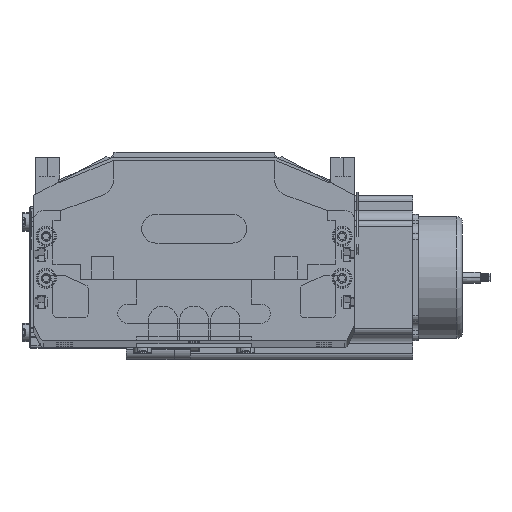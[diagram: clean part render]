
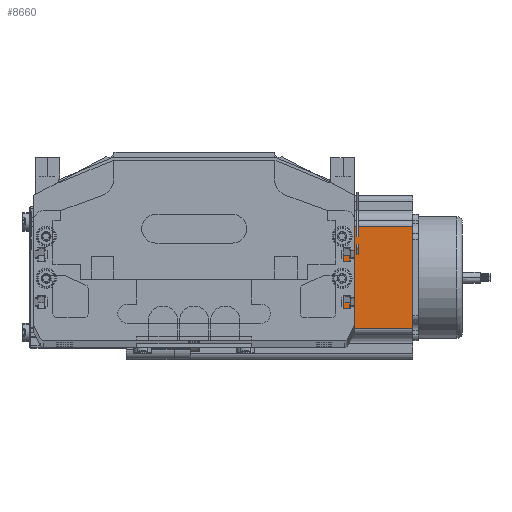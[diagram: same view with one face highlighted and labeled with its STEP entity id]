
A CAD part, top view. The second image highlights one B-rep face of the part: STEP entity #8660.
In plain terms, the highlighted planar face has unit normal (0, 0, 1) as drawn and (0, -1, 0) by its records, which use the part's own axes.
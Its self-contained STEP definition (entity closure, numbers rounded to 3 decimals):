
#2788 = DIRECTION ( 'NONE',  ( 1., 0., 0. ) ) ;
#2789 = VECTOR ( 'NONE', #2788, 1000. ) ;
#2790 = CARTESIAN_POINT ( 'NONE',  ( 0., 0., 116.5 ) ) ;
#2795 = LINE ( 'NONE', #2790, #2789 ) ;
#2798 = CARTESIAN_POINT ( 'NONE',  ( 16.16, 0., 116.5 ) ) ;
#2807 = DIRECTION ( 'NONE',  ( 0., 0., -1. ) ) ;
#2808 = VECTOR ( 'NONE', #2807, 1000. ) ;
#2820 = DIRECTION ( 'NONE',  ( 0., 0., 1. ) ) ;
#2821 = VECTOR ( 'NONE', #2820, 1000. ) ;
#2825 = CARTESIAN_POINT ( 'NONE',  ( 69.74, 0., 116.5 ) ) ;
#2826 = LINE ( 'NONE', #2825, #2821 ) ;
#2929 = CARTESIAN_POINT ( 'NONE',  ( 16.16, 0., 116.5 ) ) ;
#2930 = LINE ( 'NONE', #2929, #2808 ) ;
#2993 = CARTESIAN_POINT ( 'NONE',  ( 69.74, 0., 0. ) ) ;
#2999 = CARTESIAN_POINT ( 'NONE',  ( 69.74, 0., 116.5 ) ) ;
#3005 = FACE_OUTER_BOUND ( 'NONE', #8650, .T. ) ;
#3027 = DIRECTION ( 'NONE',  ( 0., 0., 1. ) ) ;
#3028 = DIRECTION ( 'NONE',  ( 0., 1., 0. ) ) ;
#3029 = CARTESIAN_POINT ( 'NONE',  ( 0., 0., 116.5 ) ) ;
#3030 = AXIS2_PLACEMENT_3D ( 'NONE', #3029, #3028, #3027 ) ;
#3089 = DIRECTION ( 'NONE',  ( 1., 0., 0. ) ) ;
#3090 = VECTOR ( 'NONE', #3089, 1000. ) ;
#3092 = CARTESIAN_POINT ( 'NONE',  ( 0., 0., 0. ) ) ;
#3098 = LINE ( 'NONE', #3092, #3090 ) ;
#3100 = PLANE ( 'NONE',  #3030 ) ;
#3106 = CARTESIAN_POINT ( 'NONE',  ( 16.16, 0., 0. ) ) ;
#7772 = ORIENTED_EDGE ( 'NONE', *, *, #8496, .T. ) ;
#8493 = ORIENTED_EDGE ( 'NONE', *, *, #8530, .T. ) ;
#8496 = EDGE_CURVE ( 'NONE', #8652, #8639, #2826, .T. ) ;
#8530 = EDGE_CURVE ( 'NONE', #8552, #8717, #2930, .T. ) ;
#8552 = VERTEX_POINT ( 'NONE', #2798 ) ;
#8555 = EDGE_CURVE ( 'NONE', #8552, #8639, #2795, .T. ) ;
#8558 = ORIENTED_EDGE ( 'NONE', *, *, #8555, .F. ) ;
#8639 = VERTEX_POINT ( 'NONE', #2999 ) ;
#8650 = EDGE_LOOP ( 'NONE', ( #8663, #7772, #8558, #8493 ) ) ;
#8652 = VERTEX_POINT ( 'NONE', #2993 ) ;
#8656 = EDGE_CURVE ( 'NONE', #8717, #8652, #3098, .T. ) ;
#8660 = ADVANCED_FACE ( 'NONE', ( #3005 ), #3100, .F. ) ;
#8663 = ORIENTED_EDGE ( 'NONE', *, *, #8656, .T. ) ;
#8717 = VERTEX_POINT ( 'NONE', #3106 ) ;
